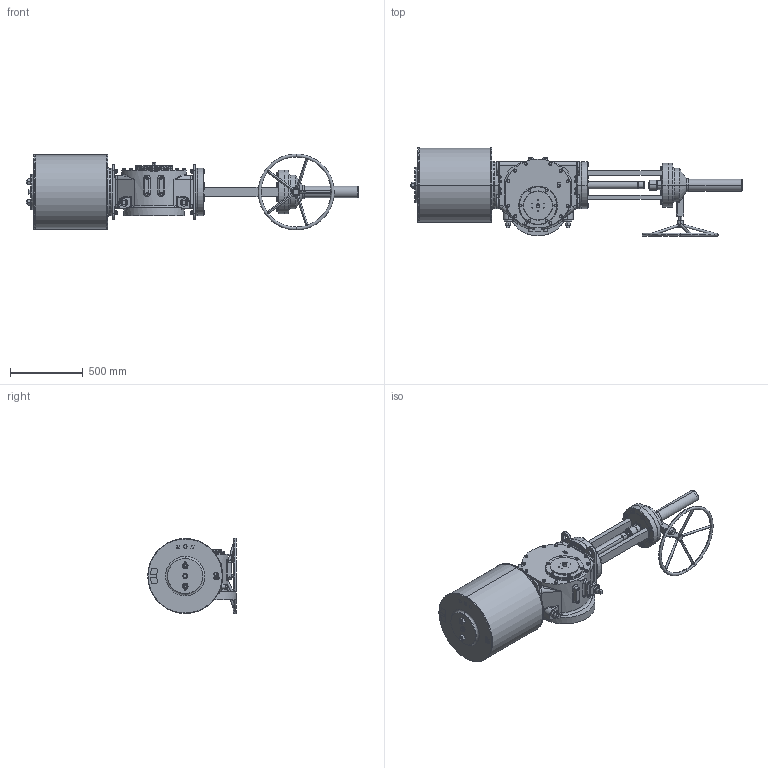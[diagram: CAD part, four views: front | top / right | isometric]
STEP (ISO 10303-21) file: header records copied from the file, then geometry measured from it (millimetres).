
FILE_DESCRIPTION (( 'STEP AP203' ), '1' );
FILE_NAME ('VTS5-500-MGD.STEP', '2022-12-15T01:28:17', ( '' ), ( '' ), 'SwSTEP 2.0', 'SolidWorks 2020', '' );
FILE_SCHEMA (( 'CONFIG_CONTROL_DESIGN' ));
Length unit declared in the file: millimetre
Products named in the file (1): VTS5-500-MGD
Bounding box: 2275.5 x 607 x 520 mm (x, y, z)
Volume: 185613518.9 mm3; surface area: 4444897.2 mm2
Topology: 79 solids, 82 shells, 3534 faces, 8695 edges, 5439 vertices
Faces by surface type: plane 1516, cylinder 1068, cone 799, bspline 119, torus 32
Entity records: 124465 total; most frequent: CARTESIAN_POINT 42139, DIRECTION 17220, ORIENTED_EDGE 17170, EDGE_CURVE 8585, AXIS2_PLACEMENT_3D 6841, VERTEX_POINT 5439, EDGE_LOOP 3980, VECTOR 3538
